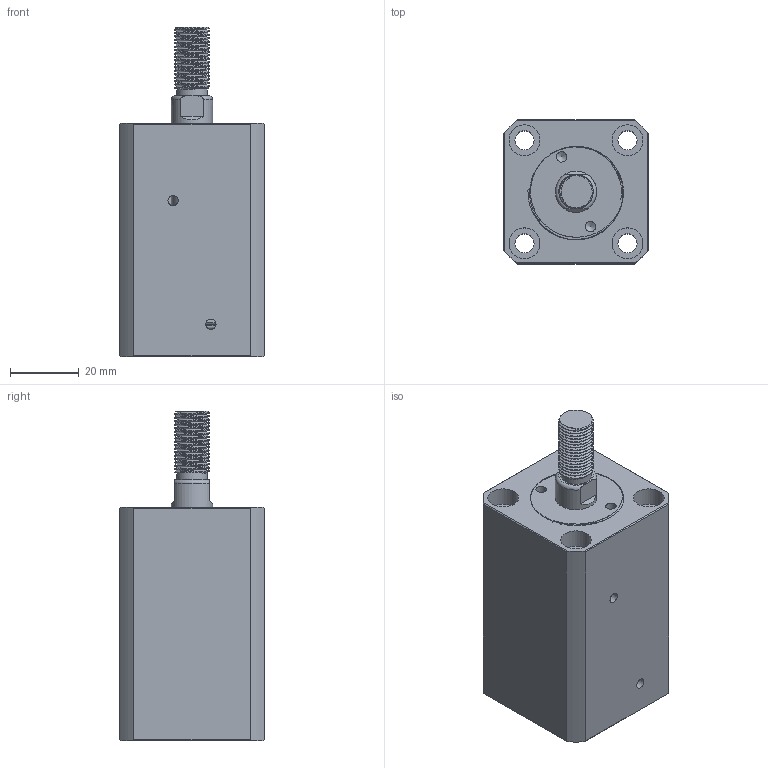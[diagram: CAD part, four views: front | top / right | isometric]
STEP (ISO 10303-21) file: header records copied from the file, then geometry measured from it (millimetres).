
FILE_DESCRIPTION(/* description */ (''),/* implementation_level */ '2;1');
FILE_NAME(/* name */ 'CHTB-sdmb20x25w.stp',/* time_stamp */ '2022-04-29T15:55:56+08:00',/* author */ (''),/* organization */ (''),/* preprocessor_version */ 'ST-DEVELOPER v16.7',/* originating_system */ 'SIEMENS PLM Software NX 12.0',/* authorisation */ '');
FILE_SCHEMA (('AUTOMOTIVE_DESIGN { 1 0 10303 214 3 1 1 1 }'));
Length unit declared in the file: millimetre
Products named in the file (1): CHTB-sdmb20x25w
Bounding box: 42 x 42 x 96 mm (x, y, z)
Volume: 104905.6 mm3; surface area: 33419 mm2
Topology: 3 solids, 3 shells, 519 faces, 1488 edges, 1020 vertices
Faces by surface type: plane 323, extrusion 111, cylinder 51, torus 18, bspline 13, cone 3
Full cylindrical faces by diameter (mm): 2.5 x2, 3 x4, 5.6 x4, 8 x2, 9 x9, 12 x2, 16 x2, 18 x1, 20 x5, 26.5 x9
Entity records: 27629 total; most frequent: CARTESIAN_POINT 12512, ORIENTED_EDGE 2798, DIRECTION 1988, EDGE_CURVE 1399, VECTOR 1018, VERTEX_POINT 996, LINE 907, EDGE_LOOP 627
